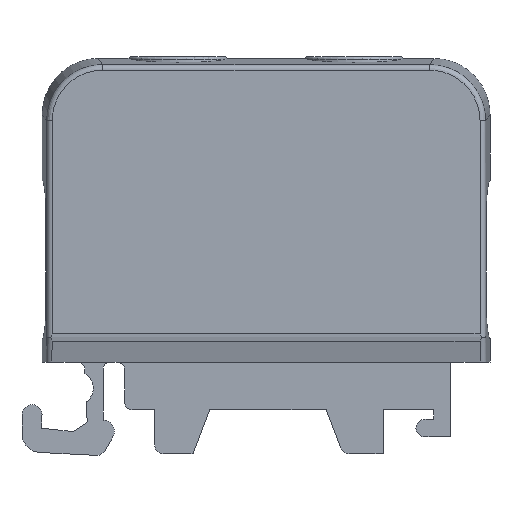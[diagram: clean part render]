
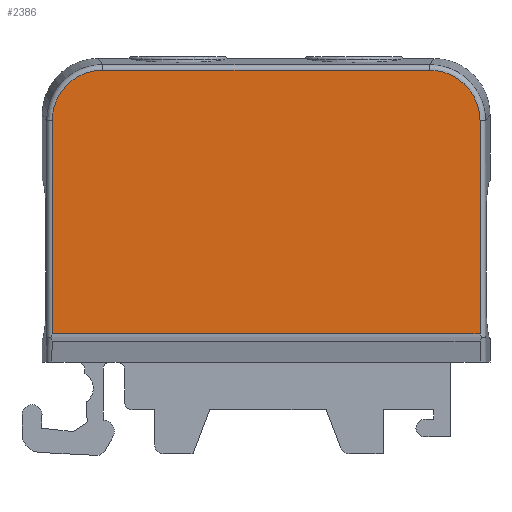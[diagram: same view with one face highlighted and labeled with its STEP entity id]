
A CAD part, front view. The second image highlights one B-rep face of the part: STEP entity #2386.
In plain terms, the highlighted planar face has unit normal (0, -1, 0).
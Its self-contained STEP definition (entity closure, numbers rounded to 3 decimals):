
#67=PLANE('',#2600);
#197=ELLIPSE('',#2601,5.427,5.4);
#198=ELLIPSE('',#2602,5.427,5.4);
#580=ORIENTED_EDGE('',*,*,#937,.F.);
#581=ORIENTED_EDGE('',*,*,#1172,.T.);
#582=ORIENTED_EDGE('',*,*,#940,.F.);
#583=ORIENTED_EDGE('',*,*,#1173,.F.);
#584=ORIENTED_EDGE('',*,*,#1174,.F.);
#585=ORIENTED_EDGE('',*,*,#1175,.F.);
#937=EDGE_CURVE('',#1285,#1286,#1502,.F.);
#940=EDGE_CURVE('',#1288,#1289,#1504,.T.);
#1172=EDGE_CURVE('',#1285,#1289,#1667,.T.);
#1173=EDGE_CURVE('',#1446,#1288,#197,.F.);
#1174=EDGE_CURVE('',#1447,#1446,#1668,.T.);
#1175=EDGE_CURVE('',#1286,#1447,#198,.F.);
#1285=VERTEX_POINT('',#3437);
#1286=VERTEX_POINT('',#3439);
#1288=VERTEX_POINT('',#3445);
#1289=VERTEX_POINT('',#3446);
#1446=VERTEX_POINT('',#3949);
#1447=VERTEX_POINT('',#3951);
#1502=LINE('',#3438,#1744);
#1504=LINE('',#3444,#1746);
#1667=LINE('',#3947,#1909);
#1668=LINE('',#3950,#1910);
#1744=VECTOR('',#2715,1000.);
#1746=VECTOR('',#2721,1000.);
#1909=VECTOR('',#3138,1000.);
#1910=VECTOR('',#3141,1000.);
#2055=EDGE_LOOP('',(#580,#581,#582,#583,#584,#585));
#2199=FACE_BOUND('',#2055,.T.);
#2386=ADVANCED_FACE('',(#2199),#67,.F.);
#2600=AXIS2_PLACEMENT_3D('',#3946,#3136,#3137);
#2601=AXIS2_PLACEMENT_3D('',#3948,#3139,#3140);
#2602=AXIS2_PLACEMENT_3D('',#3952,#3142,#3143);
#2715=DIRECTION('',(0.,0.,-1.));
#2721=DIRECTION('',(0.,0.,-1.));
#3136=DIRECTION('',(0.,1.,0.));
#3137=DIRECTION('',(0.,0.,-1.));
#3138=DIRECTION('',(1.,0.,0.));
#3139=DIRECTION('',(0.,-1.,0.));
#3140=DIRECTION('',(-0.581,0.,-0.814));
#3141=DIRECTION('',(1.,0.,0.));
#3142=DIRECTION('',(0.,-1.,0.));
#3143=DIRECTION('',(0.581,0.,-0.814));
#3437=CARTESIAN_POINT('',(-22.834,-8.65,-10.643));
#3438=CARTESIAN_POINT('',(-22.834,-8.65,-18.75));
#3439=CARTESIAN_POINT('',(-22.834,-8.65,12.104));
#3444=CARTESIAN_POINT('',(22.834,-8.65,-18.75));
#3445=CARTESIAN_POINT('',(22.834,-8.65,12.104));
#3446=CARTESIAN_POINT('',(22.834,-8.65,-10.643));
#3946=CARTESIAN_POINT('',(-8.461,-8.65,-18.75));
#3947=CARTESIAN_POINT('',(22.832,-8.65,-10.643));
#3948=CARTESIAN_POINT('',(17.425,-8.65,12.079));
#3949=CARTESIAN_POINT('',(17.45,-8.65,17.497));
#3950=CARTESIAN_POINT('',(17.418,-8.65,17.497));
#3951=CARTESIAN_POINT('',(-17.45,-8.65,17.497));
#3952=CARTESIAN_POINT('',(-17.425,-8.65,12.079));
